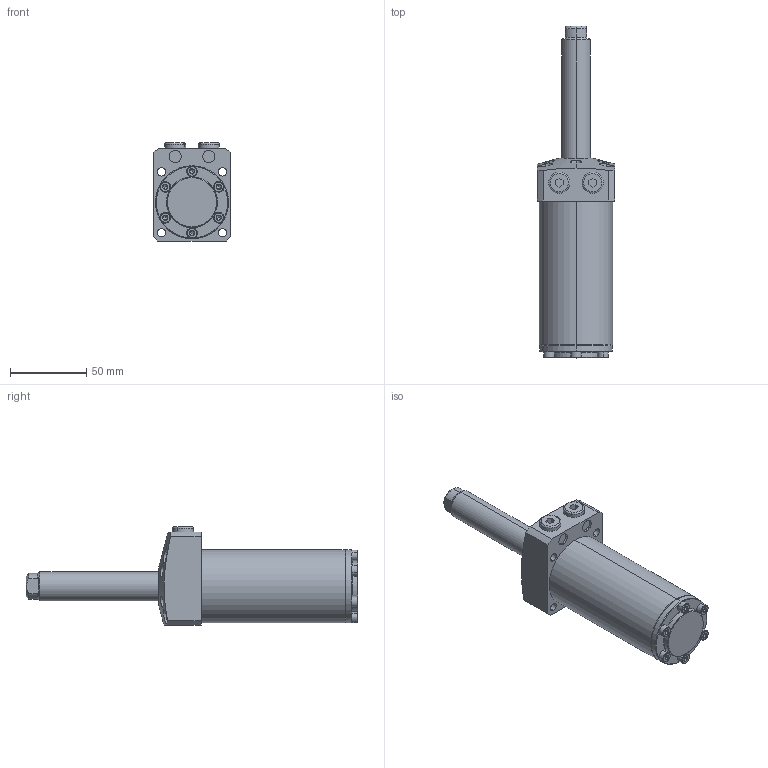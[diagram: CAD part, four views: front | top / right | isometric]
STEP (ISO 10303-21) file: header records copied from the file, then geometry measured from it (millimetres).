
FILE_DESCRIPTION (( 'STEP AP203' ), '1' );
FILE_NAME ('680480-CA-076.STEP', '2019-11-06T04:37:20', ( '微软用户' ), ( '微软中国' ), 'SwSTEP 2.0', 'SolidWorks 2014', '' );
FILE_SCHEMA (( 'CONFIG_CONTROL_DESIGN' ));
Length unit declared in the file: millimetre
Products named in the file (7): 葩璃 680480-CA-51-1^680480-CA-076; 葩璃 680480-CA-51-2^680480-CA-076; 葩璃 680480-CA-51-4^680480-CA-076; 葩璃 680480-CA-51-3^680480-CA-076; 葩璃 680480-CA-51-5^680480-CA-076; 葩璃 680480-CA-51-6^680480-CA-076; 680480-CA-076
Assembly tree (17 placements, depth 2):
  680480-CA-076
    葩璃 680480-CA-51-1^680480-CA-076
    葩璃 680480-CA-51-2^680480-CA-076
    葩璃 680480-CA-51-4^680480-CA-076
    葩璃 680480-CA-51-3^680480-CA-076  x6
    葩璃 680480-CA-51-5^680480-CA-076  x6
    葩璃 680480-CA-51-6^680480-CA-076  x2
Bounding box: 51 x 218 x 64.5 mm (x, y, z)
Volume: 260608.1 mm3; surface area: 50628.9 mm2
Topology: 17 solids, 17 shells, 549 faces, 1037 edges, 544 vertices
Faces by surface type: plane 236, cone 168, cylinder 129, torus 16
Entity records: 7500 total; most frequent: CARTESIAN_POINT 1798, DIRECTION 1077, ORIENTED_EDGE 878, AXIS2_PLACEMENT_3D 451, EDGE_CURVE 439, VERTEX_POINT 262, EDGE_LOOP 257, CIRCLE 218
